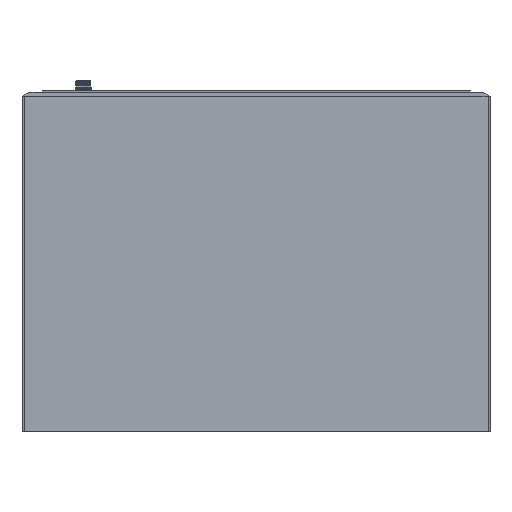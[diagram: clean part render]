
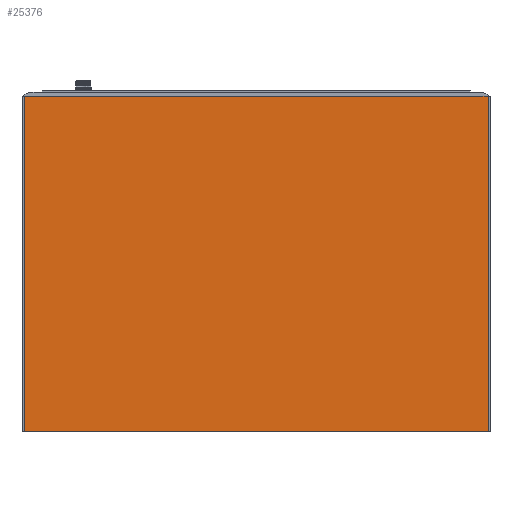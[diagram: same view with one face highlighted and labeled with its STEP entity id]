
A CAD part, front view. The second image highlights one B-rep face of the part: STEP entity #25376.
In plain terms, the highlighted planar face has unit normal (0, -1, 0).
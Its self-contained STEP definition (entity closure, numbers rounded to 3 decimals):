
#1554=PLANE('',#27313);
#2597=FACE_OUTER_BOUND('',#4505,.T.);
#4505=EDGE_LOOP('',(#18237,#18238,#18239,#18240));
#6531=LINE('',#36731,#8742);
#6536=LINE('',#36759,#8747);
#6538=LINE('',#36775,#8749);
#6539=LINE('',#36777,#8750);
#8742=VECTOR('',#29889,10.);
#8747=VECTOR('',#29918,10.);
#8749=VECTOR('',#29936,10.);
#8750=VECTOR('',#29939,10.);
#12039=VERTEX_POINT('',#36728);
#12040=VERTEX_POINT('',#36730);
#12050=VERTEX_POINT('',#36756);
#12051=VERTEX_POINT('',#36758);
#14607=EDGE_CURVE('',#12039,#12040,#6531,.T.);
#14621=EDGE_CURVE('',#12050,#12051,#6536,.T.);
#14630=EDGE_CURVE('',#12040,#12050,#6538,.T.);
#14631=EDGE_CURVE('',#12051,#12039,#6539,.T.);
#18237=ORIENTED_EDGE('',*,*,#14630,.F.);
#18238=ORIENTED_EDGE('',*,*,#14607,.F.);
#18239=ORIENTED_EDGE('',*,*,#14631,.F.);
#18240=ORIENTED_EDGE('',*,*,#14621,.F.);
#25376=ADVANCED_FACE('',(#2597),#1554,.T.);
#27313=AXIS2_PLACEMENT_3D('',#36776,#29937,#29938);
#29889=DIRECTION('',(-1.,0.,0.));
#29918=DIRECTION('',(1.,0.,0.));
#29936=DIRECTION('',(0.,0.,1.));
#29937=DIRECTION('center_axis',(0.,-1.,0.));
#29938=DIRECTION('ref_axis',(0.,0.,-1.));
#29939=DIRECTION('',(0.,0.,-1.));
#36728=CARTESIAN_POINT('',(233.,0.,0.));
#36730=CARTESIAN_POINT('',(-233.,0.,0.));
#36731=CARTESIAN_POINT('',(0.,0.,0.));
#36756=CARTESIAN_POINT('',(-233.,0.,336.6));
#36758=CARTESIAN_POINT('',(233.,0.,336.6));
#36759=CARTESIAN_POINT('',(0.,0.,336.6));
#36775=CARTESIAN_POINT('',(-233.,0.,252.45));
#36776=CARTESIAN_POINT('Origin',(0.,0.,336.6));
#36777=CARTESIAN_POINT('',(233.,0.,252.45));
